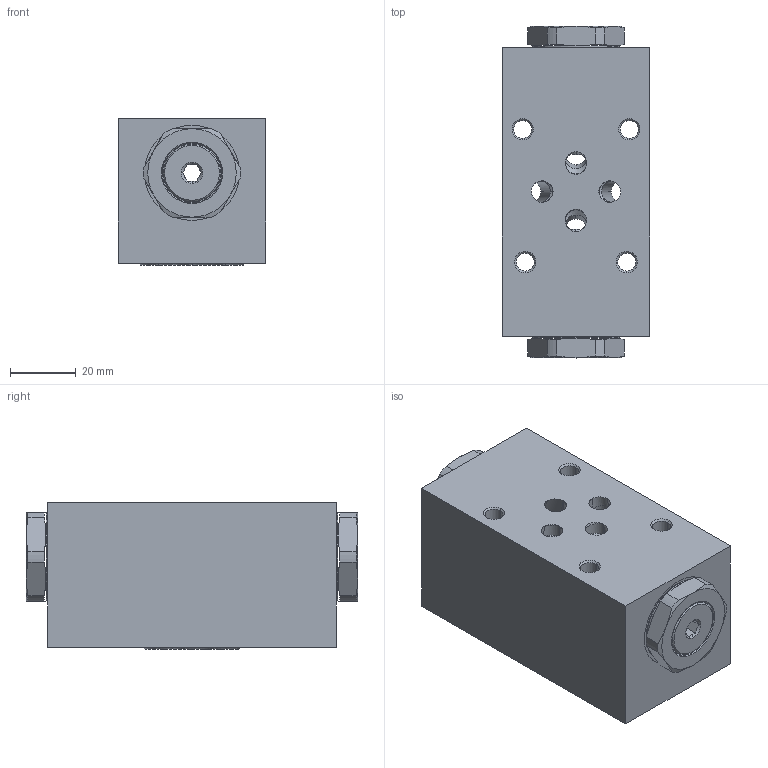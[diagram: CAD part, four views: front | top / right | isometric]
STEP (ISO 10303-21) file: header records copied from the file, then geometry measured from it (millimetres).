
FILE_DESCRIPTION (( 'STEP AP203' ), '1' );
FILE_NAME ('415063193020.STEP', '2016-10-20T06:38:38', ( 'OILCOMP SRL' ), ( 'Hewlett-Packard Company' ), 'SwSTEP 2.0', 'SolidWorks 2016', '' );
FILE_SCHEMA (( 'CONFIG_CONTROL_DESIGN' ));
Length unit declared in the file: millimetre
Products named in the file (1): 415063193020
Bounding box: 45 x 101.2 x 44.65 mm (x, y, z)
Surface area: 28060.9 mm2 (no closed solid volume)
Topology: 0 solids, 12 shells, 195 faces, 538 edges, 343 vertices
Faces by surface type: cylinder 84, cone 49, plane 42, bspline 16, torus 4
Entity records: 7044 total; most frequent: CARTESIAN_POINT 2365, ORIENTED_EDGE 941, DIRECTION 937, EDGE_CURVE 538, AXIS2_PLACEMENT_3D 391, VERTEX_POINT 343, EDGE_LOOP 225, CIRCLE 211
